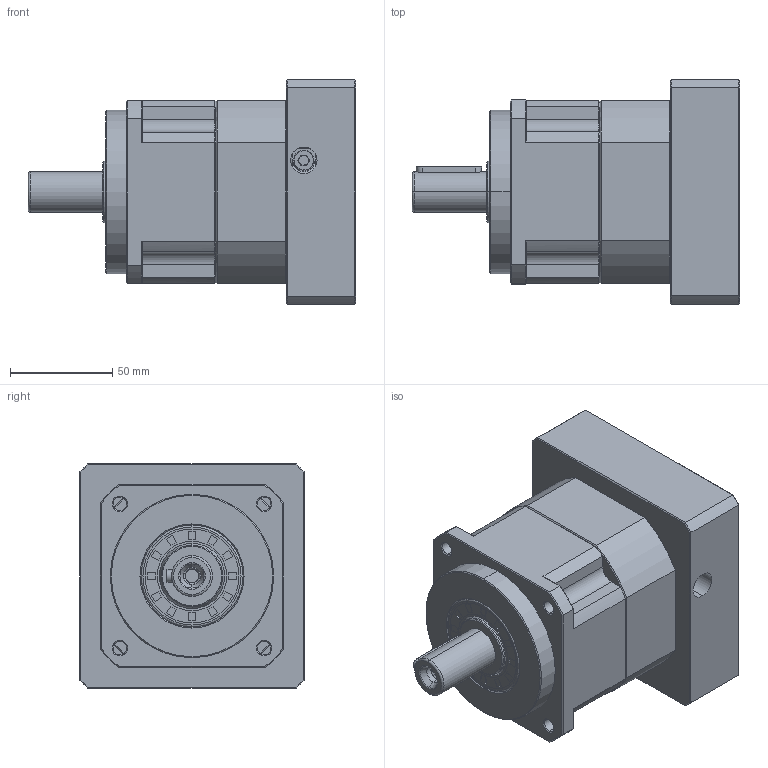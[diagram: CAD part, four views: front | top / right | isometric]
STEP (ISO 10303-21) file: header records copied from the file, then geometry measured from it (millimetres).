
FILE_DESCRIPTION (( 'STEP AP214' ), '1' );
FILE_NAME ('ZPB090-D20-L1-P1-19-95-130-M8.step', '2024-06-07T18:14:06', ( 'Windows 蚚誧' ), ( 'Organization' ), 'SwSTEP 2.0', 'SolidWorks 2016', '' );
FILE_SCHEMA (( 'AUTOMOTIVE_DESIGN' ));
Length unit declared in the file: millimetre
Products named in the file (1): ZPB090-D20-L1-P1-19-95-130-M8
Bounding box: 160.5 x 110 x 110 mm (x, y, z)
Surface area: 94255.6 mm2 (no closed solid volume)
Topology: 0 solids, 35 shells, 1817 faces, 4863 edges, 3110 vertices
Faces by surface type: plane 933, bspline 388, cone 276, cylinder 218, torus 2
Full cylindrical faces by diameter (mm): 6.72 x1
Entity records: 94887 total; most frequent: CARTESIAN_POINT 47726, ORIENTED_EDGE 9677, DIRECTION 7451, EDGE_CURVE 4858, LINE 3199, VECTOR 3199, VERTEX_POINT 3108, AXIS2_PLACEMENT_3D 2126
